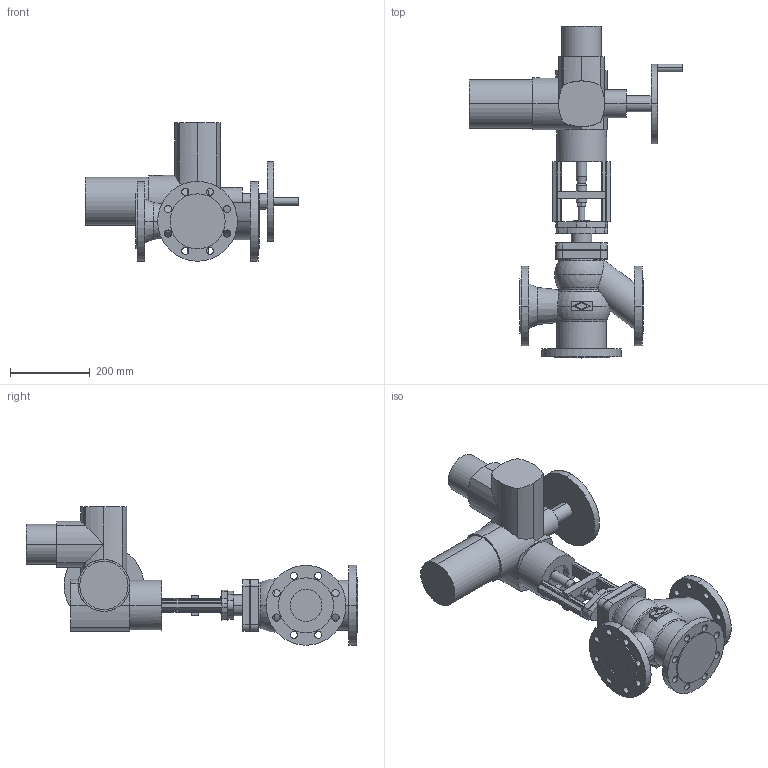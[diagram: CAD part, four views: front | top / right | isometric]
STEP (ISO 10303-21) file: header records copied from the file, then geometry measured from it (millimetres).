
FILE_DESCRIPTION(('OneSpaceDesigner STEP Export'),'2;1');
FILE_NAME('c000003160.stp','2007-01-24T10:32:53',(''),(''),'OneSpace Designer STEP processor for AP214 (Solid Model)','OneSpace Designer 14.00B 27-May-2006 (C) CoCreate Software GmbH','');
FILE_SCHEMA(('AUTOMOTIVE_DESIGN { 1 0 10303 214 1 1 1 1 }'));
Length unit declared in the file: millimetre
Products named in the file (2): 1; 2
Bounding box: 536 x 831.5 x 347 mm (x, y, z)
Volume: 17290268.6 mm3; surface area: 931963.3 mm2
Topology: 2 solids, 2 shells, 321 faces, 835 edges, 532 vertices
Faces by surface type: cylinder 168, plane 131, torus 10, cone 8, sphere 4
Entity records: 9378 total; most frequent: CARTESIAN_POINT 2083, ORIENTED_EDGE 1662, DIRECTION 1328, EDGE_CURVE 831, VERTEX_POINT 532, AXIS2_PLACEMENT_3D 458, VECTOR 412, LINE 412
